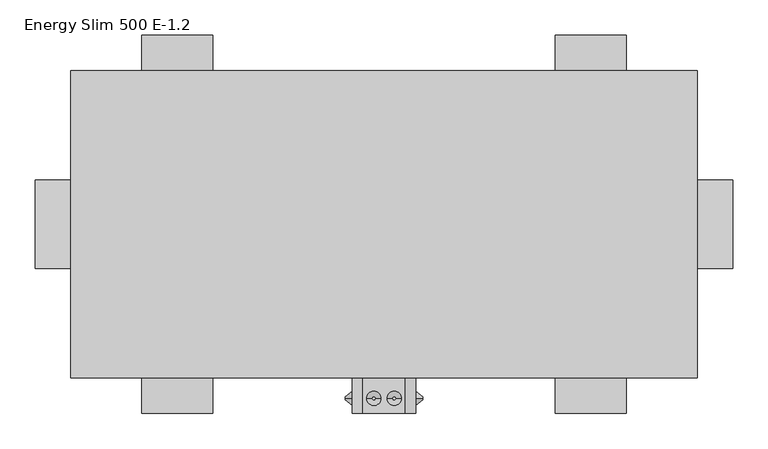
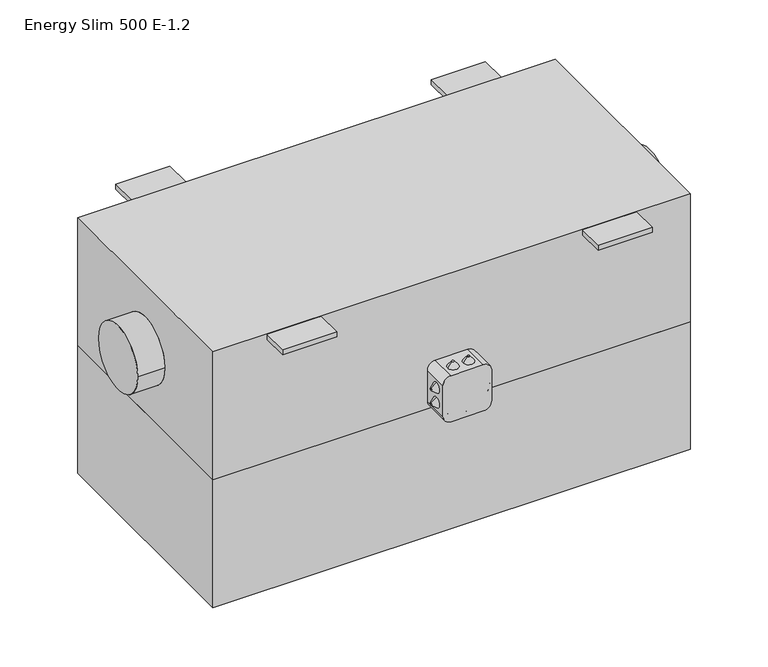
"""IFC4 building model written with IfcOpenShell, lengths in millimetres: proxy geometry, ADSK_КПВУ_ENERGY SLIM E_круглая : Energy Slim 500 E-1.2."""

from ifc_helpers import new_model, si_unit, point, frame, frame_2d, origin, place, context, project, spatial, polyline, circle_curve, trimmed, segment, composite_curve, outline, extrude, source, transform, mapped, element, save
from ifc_brep_helpers import plane_surface, cylinder_surface, revolved_surface, advanced_brep


def energy_slim_500_e_1_2_b539ae45(model_context):
    return source(origin(), model_context, "Body", "SolidModel", [
        advanced_brep(
        [(211.0, -245.9311792, -96.7092609), (211.0, -245.9311792, -92.7092609), (221.0, -245.9311792, -104.7092609), (221.0, -245.9311792, -84.7092609)],
        [
            (0, 1, circle_curve(frame((211.0, -245.9311792, -94.7092609), z_axis=(-1.0, 0.0, 0.0), x_axis=(0.0, 0.0, -1.0)), 2.0)),
            (1, 0, circle_curve(frame((211.0, -245.9311792, -94.7092609), z_axis=(-1.0, 0.0, 0.0), x_axis=(0.0, 0.0, 1.0)), 2.0)),
            (2, 3, circle_curve(frame((221.0, -245.9311792, -94.7092609), z_axis=(1.0, 0.0, 0.0), x_axis=(0.0, 0.0, 1.0)), 10.0)),
            (3, 2, circle_curve(frame((221.0, -245.9311792, -94.7092609), z_axis=(1.0, 0.0, 0.0), x_axis=(0.0, 0.0, -1.0)), 10.0)),
            (2, 0),
            (1, 3),
        ],
        [
            plane_surface(frame((211.0, -245.9311792, -94.7092609), z_axis=(-1.0, 0.0, 0.0), x_axis=(0.0, -1.0, 0.0))),
            plane_surface(frame((221.0, -245.9311792, -94.7092609), z_axis=(1.0, 0.0, 0.0), x_axis=(0.0, -1.0, 0.0))),
            revolved_surface(polyline([(211.0, -245.9311792, -92.7092609), (221.0, -245.9311792, -84.7092609)]), (208.5, -245.9311792, -94.7092609), (1.0, 0.0, 0.0)),
            revolved_surface(polyline([(211.0, -245.9311792, -96.7092609), (221.0, -245.9311792, -104.7092609)]), (208.5, -245.9311792, -94.7092609), (1.0, 0.0, 0.0)),
        ],
        [
            (0, [[1, 2]]),
            (1, [[3, 4]]),
            (2, [[-3, 5, -2, 6]]),
            (3, [[-4, -6, -1, -5]]),
        ],
    ),
        advanced_brep(
        [(211.0, -245.9311792, -64.0531164), (211.0, -245.9311792, -68.0531164), (221.0, -245.9311792, -56.0531164), (221.0, -245.9311792, -76.0531164)],
        [
            (0, 1, circle_curve(frame((211.0, -245.9311792, -66.0531164), z_axis=(-1.0, 0.0, 0.0), x_axis=(0.0, 0.0, 1.0)), 2.0)),
            (1, 0, circle_curve(frame((211.0, -245.9311792, -66.0531164), z_axis=(-1.0, 0.0, 0.0), x_axis=(0.0, 0.0, -1.0)), 2.0)),
            (2, 3, circle_curve(frame((221.0, -245.9311792, -66.0531164), z_axis=(1.0, 0.0, 0.0), x_axis=(0.0, 0.0, -1.0)), 10.0)),
            (3, 2, circle_curve(frame((221.0, -245.9311792, -66.0531164), z_axis=(1.0, 0.0, 0.0), x_axis=(0.0, 0.0, 1.0)), 10.0)),
            (3, 1),
            (0, 2),
        ],
        [
            plane_surface(frame((211.0, -245.9311792, -66.0531164), z_axis=(-1.0, 0.0, 0.0), x_axis=(0.0, 1.0, 0.0))),
            plane_surface(frame((221.0, -245.9311792, -66.0531164), z_axis=(1.0, 0.0, 0.0), x_axis=(0.0, 1.0, 0.0))),
            revolved_surface(polyline([(211.0, -245.9311792, -64.0531164), (221.0, -245.9311792, -56.0531164)]), (208.5, -245.9311792, -66.0531164), (1.0, 0.0, 0.0)),
            revolved_surface(polyline([(211.0, -245.9311792, -68.0531164), (221.0, -245.9311792, -76.0531164)]), (208.5, -245.9311792, -66.0531164), (1.0, 0.0, 0.0)),
        ],
        [
            (0, [[1, 2]]),
            (1, [[3, 4]]),
            (2, [[-4, 5, -1, 6]]),
            (3, [[-3, -6, -2, -5]]),
        ],
    ),
        advanced_brep(
        [(321.0, -245.9311792, -96.7092609), (321.0, -245.9311792, -92.7092609), (311.0, -245.9311792, -104.7092609), (311.0, -245.9311792, -84.7092609)],
        [
            (0, 1, circle_curve(frame((321.0, -245.9311792, -94.7092609), z_axis=(1.0, 0.0, 0.0), x_axis=(0.0, 0.0, -1.0)), 2.0)),
            (1, 0, circle_curve(frame((321.0, -245.9311792, -94.7092609), z_axis=(1.0, 0.0, 0.0), x_axis=(0.0, 0.0, 1.0)), 2.0)),
            (2, 3, circle_curve(frame((311.0, -245.9311792, -94.7092609), z_axis=(-1.0, 0.0, 0.0), x_axis=(0.0, 0.0, 1.0)), 10.0)),
            (3, 2, circle_curve(frame((311.0, -245.9311792, -94.7092609), z_axis=(-1.0, 0.0, 0.0), x_axis=(0.0, 0.0, -1.0)), 10.0)),
            (3, 1),
            (0, 2),
        ],
        [
            plane_surface(frame((321.0, -245.9311792, -94.7092609), z_axis=(1.0, 0.0, 0.0), x_axis=(0.0, 1.0, 0.0))),
            plane_surface(frame((311.0, -245.9311792, -94.7092609), z_axis=(-1.0, 0.0, 0.0), x_axis=(0.0, 1.0, 0.0))),
            revolved_surface(polyline([(321.0, -245.9311792, -96.7092609), (311.0, -245.9311792, -104.7092609)]), (323.5, -245.9311792, -94.7092609), (-1.0, 0.0, 0.0)),
            revolved_surface(polyline([(321.0, -245.9311792, -92.7092609), (311.0, -245.9311792, -84.7092609)]), (323.5, -245.9311792, -94.7092609), (-1.0, 0.0, 0.0)),
        ],
        [
            (0, [[1, 2]]),
            (1, [[3, 4]]),
            (2, [[-4, 5, -1, 6]]),
            (3, [[-3, -6, -2, -5]]),
        ],
    ),
        advanced_brep(
        [(321.0, -245.9311792, -64.0531164), (321.0, -245.9311792, -68.0531164), (311.0, -245.9311792, -56.0531164), (311.0, -245.9311792, -76.0531164)],
        [
            (0, 1, circle_curve(frame((321.0, -245.9311792, -66.0531164), z_axis=(1.0, 0.0, 0.0), x_axis=(0.0, 0.0, 1.0)), 2.0)),
            (1, 0, circle_curve(frame((321.0, -245.9311792, -66.0531164), z_axis=(1.0, 0.0, 0.0), x_axis=(0.0, 0.0, -1.0)), 2.0)),
            (2, 3, circle_curve(frame((311.0, -245.9311792, -66.0531164), z_axis=(-1.0, 0.0, 0.0), x_axis=(0.0, 0.0, -1.0)), 10.0)),
            (3, 2, circle_curve(frame((311.0, -245.9311792, -66.0531164), z_axis=(-1.0, 0.0, 0.0), x_axis=(0.0, 0.0, 1.0)), 10.0)),
            (2, 0),
            (1, 3),
        ],
        [
            plane_surface(frame((321.0, -245.9311792, -66.0531164), z_axis=(1.0, 0.0, 0.0), x_axis=(0.0, -1.0, 0.0))),
            plane_surface(frame((311.0, -245.9311792, -66.0531164), z_axis=(-1.0, 0.0, 0.0), x_axis=(0.0, -1.0, 0.0))),
            revolved_surface(polyline([(321.0, -245.9311792, -68.0531164), (311.0, -245.9311792, -76.0531164)]), (323.5, -245.9311792, -66.0531164), (-1.0, 0.0, 0.0)),
            revolved_surface(polyline([(321.0, -245.9311792, -64.0531164), (311.0, -245.9311792, -56.0531164)]), (323.5, -245.9311792, -66.0531164), (-1.0, 0.0, 0.0)),
        ],
        [
            (0, [[1, 2]]),
            (1, [[3, 4]]),
            (2, [[-3, 5, -2, 6]]),
            (3, [[-4, -6, -1, -5]]),
        ],
    ),
        advanced_brep(
        [(249.6719278, -245.9311792, -135.0), (253.6719278, -245.9311792, -135.0), (241.6719278, -245.9311792, -125.0), (261.6719278, -245.9311792, -125.0)],
        [
            (0, 1, circle_curve(frame((251.6719278, -245.9311792, -135.0), z_axis=(0.0, 0.0, -1.0), x_axis=(-1.0, 0.0, 0.0)), 2.0)),
            (1, 0, circle_curve(frame((251.6719278, -245.9311792, -135.0), z_axis=(0.0, 0.0, -1.0), x_axis=(1.0, 0.0, 0.0)), 2.0)),
            (2, 3, circle_curve(frame((251.6719278, -245.9311792, -125.0), z_axis=(0.0, 0.0, 1.0), x_axis=(1.0, 0.0, 0.0)), 10.0)),
            (3, 2, circle_curve(frame((251.6719278, -245.9311792, -125.0), z_axis=(0.0, 0.0, 1.0), x_axis=(-1.0, 0.0, 0.0)), 10.0)),
            (3, 1),
            (0, 2),
        ],
        [
            plane_surface(frame((251.6719278, -245.9311792, -135.0), z_axis=(0.0, 0.0, -1.0), x_axis=(0.0, 1.0, 0.0))),
            plane_surface(frame((251.6719278, -245.9311792, -125.0), z_axis=(0.0, 0.0, 1.0), x_axis=(0.0, 1.0, 0.0))),
            revolved_surface(polyline([(249.6719278, -245.9311792, -135.0), (241.6719278, -245.9311792, -125.0)]), (251.6719278, -245.9311792, -137.5), (0.0, 0.0, 1.0)),
            revolved_surface(polyline([(253.6719278, -245.9311792, -135.0), (261.6719278, -245.9311792, -125.0)]), (251.6719278, -245.9311792, -137.5), (0.0, 0.0, 1.0)),
        ],
        [
            (0, [[1, 2]]),
            (1, [[3, 4]]),
            (2, [[-4, 5, -1, 6]]),
            (3, [[-3, -6, -2, -5]]),
        ],
    ),
        advanced_brep(
        [(282.3280722, -245.9311792, -135.0), (278.3280722, -245.9311792, -135.0), (290.3280722, -245.9311792, -125.0), (270.3280722, -245.9311792, -125.0)],
        [
            (0, 1, circle_curve(frame((280.3280722, -245.9311792, -135.0), z_axis=(0.0, 0.0, -1.0), x_axis=(1.0, 0.0, 0.0)), 2.0)),
            (1, 0, circle_curve(frame((280.3280722, -245.9311792, -135.0), z_axis=(0.0, 0.0, -1.0), x_axis=(-1.0, 0.0, 0.0)), 2.0)),
            (2, 3, circle_curve(frame((280.3280722, -245.9311792, -125.0), z_axis=(0.0, 0.0, 1.0), x_axis=(-1.0, 0.0, 0.0)), 10.0)),
            (3, 2, circle_curve(frame((280.3280722, -245.9311792, -125.0), z_axis=(0.0, 0.0, 1.0), x_axis=(1.0, 0.0, 0.0)), 10.0)),
            (2, 0),
            (1, 3),
        ],
        [
            plane_surface(frame((280.3280722, -245.9311792, -135.0), z_axis=(0.0, 0.0, -1.0), x_axis=(0.0, -1.0, 0.0))),
            plane_surface(frame((280.3280722, -245.9311792, -125.0), z_axis=(0.0, 0.0, 1.0), x_axis=(0.0, -1.0, 0.0))),
            revolved_surface(polyline([(278.3280722, -245.9311792, -135.0), (270.3280722, -245.9311792, -125.0)]), (280.3280722, -245.9311792, -137.5), (0.0, 0.0, 1.0)),
            revolved_surface(polyline([(282.3280722, -245.9311792, -135.0), (290.3280722, -245.9311792, -125.0)]), (280.3280722, -245.9311792, -137.5), (0.0, 0.0, 1.0)),
        ],
        [
            (0, [[1, 2]]),
            (1, [[3, 4]]),
            (2, [[-3, 5, -2, 6]]),
            (3, [[-4, -6, -1, -5]]),
        ],
    ),
        advanced_brep(
        [(249.6719278, -245.9311792, -25.0), (253.6719278, -245.9311792, -25.0), (241.6719278, -245.9311792, -35.0), (261.6719278, -245.9311792, -35.0)],
        [
            (0, 1, circle_curve(frame((251.6719278, -245.9311792, -25.0), z_axis=(0.0, 0.0, 1.0), x_axis=(-1.0, 0.0, 0.0)), 2.0)),
            (1, 0, circle_curve(frame((251.6719278, -245.9311792, -25.0), z_axis=(0.0, 0.0, 1.0), x_axis=(1.0, 0.0, 0.0)), 2.0)),
            (2, 3, circle_curve(frame((251.6719278, -245.9311792, -35.0), z_axis=(0.0, 0.0, -1.0), x_axis=(1.0, 0.0, 0.0)), 10.0)),
            (3, 2, circle_curve(frame((251.6719278, -245.9311792, -35.0), z_axis=(0.0, 0.0, -1.0), x_axis=(-1.0, 0.0, 0.0)), 10.0)),
            (2, 0),
            (1, 3),
        ],
        [
            plane_surface(frame((251.6719278, -245.9311792, -25.0), z_axis=(0.0, 0.0, 1.0), x_axis=(0.0, -1.0, 0.0))),
            plane_surface(frame((251.6719278, -245.9311792, -35.0), z_axis=(0.0, 0.0, -1.0), x_axis=(0.0, -1.0, 0.0))),
            revolved_surface(polyline([(253.6719278, -245.9311792, -25.0), (261.6719278, -245.9311792, -35.0)]), (251.6719278, -245.9311792, -22.5), (0.0, 0.0, -1.0)),
            revolved_surface(polyline([(249.6719278, -245.9311792, -25.0), (241.6719278, -245.9311792, -35.0)]), (251.6719278, -245.9311792, -22.5), (0.0, 0.0, -1.0)),
        ],
        [
            (0, [[1, 2]]),
            (1, [[3, 4]]),
            (2, [[-3, 5, -2, 6]]),
            (3, [[-4, -6, -1, -5]]),
        ],
    ),
        advanced_brep(
        [(282.3280722, -245.9311792, -25.0), (278.3280722, -245.9311792, -25.0), (290.3280722, -245.9311792, -35.0), (270.3280722, -245.9311792, -35.0)],
        [
            (0, 1, circle_curve(frame((280.3280722, -245.9311792, -25.0), z_axis=(0.0, 0.0, 1.0), x_axis=(1.0, 0.0, 0.0)), 2.0)),
            (1, 0, circle_curve(frame((280.3280722, -245.9311792, -25.0), z_axis=(0.0, 0.0, 1.0), x_axis=(-1.0, 0.0, 0.0)), 2.0)),
            (2, 3, circle_curve(frame((280.3280722, -245.9311792, -35.0), z_axis=(0.0, 0.0, -1.0), x_axis=(-1.0, 0.0, 0.0)), 10.0)),
            (3, 2, circle_curve(frame((280.3280722, -245.9311792, -35.0), z_axis=(0.0, 0.0, -1.0), x_axis=(1.0, 0.0, 0.0)), 10.0)),
            (3, 1),
            (0, 2),
        ],
        [
            plane_surface(frame((280.3280722, -245.9311792, -25.0), z_axis=(0.0, 0.0, 1.0), x_axis=(0.0, 1.0, 0.0))),
            plane_surface(frame((280.3280722, -245.9311792, -35.0), z_axis=(0.0, 0.0, -1.0), x_axis=(0.0, 1.0, 0.0))),
            revolved_surface(polyline([(282.3280722, -245.9311792, -25.0), (290.3280722, -245.9311792, -35.0)]), (280.3280722, -245.9311792, -22.5), (0.0, 0.0, -1.0)),
            revolved_surface(polyline([(278.3280722, -245.9311792, -25.0), (270.3280722, -245.9311792, -35.0)]), (280.3280722, -245.9311792, -22.5), (0.0, 0.0, -1.0)),
        ],
        [
            (0, [[1, 2]]),
            (1, [[3, 4]]),
            (2, [[-4, 5, -1, 6]]),
            (3, [[-3, -6, -2, -5]]),
        ],
    ),
        extrude(outline(composite_curve([segment(polyline([(-125.0, 236.0), (-125.0, 296.0)]), True, "CONTINUOUS"), segment(trimmed(circle_curve(frame_2d((-110.0, 296.0)), 15.0), [point((-125.0, 296.0))], [point((-110.0, 311.0))], False, "CARTESIAN"), True, "CONTINUOUS"), segment(polyline([(-110.0, 311.0), (-50.0, 311.0)]), True, "CONTINUOUS"), segment(trimmed(circle_curve(frame_2d((-50.0, 296.0)), 15.0), [point((-50.0, 311.0))], [point((-35.0, 296.0))], False, "CARTESIAN"), True, "CONTINUOUS"), segment(polyline([(-35.0, 296.0), (-35.0, 236.0)]), True, "CONTINUOUS"), segment(trimmed(circle_curve(frame_2d((-50.0, 236.0)), 15.0), [point((-35.0, 236.0))], [point((-50.0, 221.0))], False, "CARTESIAN"), True, "CONTINUOUS"), segment(polyline([(-50.0, 221.0), (-110.0, 221.0)]), True, "CONTINUOUS"), segment(trimmed(circle_curve(frame_2d((-110.0, 236.0)), 15.0), [point((-110.0, 221.0))], [point((-125.0, 236.0))], False, "CARTESIAN"), True, "CONTINUOUS")], self_intersect=False)), frame((0.0, -267.0, 0.0), z_axis=(0.0, 1.0, 0.0), x_axis=(0.0, 0.0, 1.0)), (0.0, 0.0, 1.0), 50.0),
        advanced_brep(
        [(708.0, -217.0, 125.0), (708.0, -217.0, -125.0), (708.0, 217.0, -125.0), (708.0, 217.0, 125.0), (708.0, 62.5, 0.0), (708.0, -62.5, 0.0), (-176.0, -217.0, 125.0), (-176.0, 217.0, 125.0), (-176.0, 217.0, -125.0), (-176.0, -217.0, -125.0), (-176.0, 62.5, 0.0), (-176.0, -62.5, 0.0), (-226.0, -62.5, 0.0), (-226.0, 62.5, 0.0), (758.0, -62.5, 0.0), (758.0, 62.5, 0.0)],
        [
            (0, 1),
            (1, 2),
            (2, 3),
            (3, 0),
            (4, 5, circle_curve(frame((708.0, 0.0, 0.0), z_axis=(-1.0, 0.0, 0.0), x_axis=(0.0, 1.0, 0.0)), 62.5)),
            (5, 4, circle_curve(frame((708.0, 0.0, 0.0), z_axis=(-1.0, 0.0, 0.0), x_axis=(0.0, 1.0, 0.0)), 62.5)),
            (6, 7),
            (7, 8),
            (8, 9),
            (9, 6),
            (10, 11, circle_curve(frame((-176.0, 0.0, 0.0), z_axis=(1.0, 0.0, 0.0), x_axis=(0.0, 1.0, 0.0)), 62.5)),
            (11, 10, circle_curve(frame((-176.0, 0.0, 0.0), z_axis=(1.0, 0.0, 0.0), x_axis=(0.0, 1.0, 0.0)), 62.5)),
            (12, 13, circle_curve(frame((-226.0, 0.0, 0.0), z_axis=(-1.0, 0.0, 0.0), x_axis=(0.0, 1.0, 0.0)), 62.5)),
            (13, 12, circle_curve(frame((-226.0, 0.0, 0.0), z_axis=(-1.0, 0.0, 0.0), x_axis=(0.0, 1.0, 0.0)), 62.5)),
            (0, 6),
            (9, 1),
            (8, 2),
            (7, 3),
            (12, 11),
            (10, 13),
            (14, 15, circle_curve(frame((758.0, 0.0, 0.0), z_axis=(1.0, 0.0, 0.0), x_axis=(0.0, 1.0, 0.0)), 62.5)),
            (15, 14, circle_curve(frame((758.0, 0.0, 0.0), z_axis=(1.0, 0.0, 0.0), x_axis=(0.0, 1.0, 0.0)), 62.5)),
            (14, 5),
            (4, 15),
        ],
        [
            plane_surface(frame((708.0, -217.0, 125.0), z_axis=(1.0, 0.0, 0.0), x_axis=(0.0, 0.0, -1.0))),
            plane_surface(frame((-176.0, -217.0, 125.0), z_axis=(-1.0, 0.0, 0.0), x_axis=(0.0, 0.0, 1.0))),
            plane_surface(frame((-226.0, 62.5, 0.0), z_axis=(-1.0, 0.0, 0.0), x_axis=(0.0, 0.0, -1.0))),
            plane_surface(frame((708.0, -217.0, 125.0), z_axis=(0.0, -1.0, 0.0), x_axis=(-1.0, 0.0, 0.0))),
            plane_surface(frame((708.0, -217.0, -125.0), z_axis=(0.0, 0.0, -1.0), x_axis=(-1.0, 0.0, 0.0))),
            plane_surface(frame((708.0, 217.0, -125.0), z_axis=(0.0, 1.0, 0.0), x_axis=(-1.0, 0.0, 0.0))),
            plane_surface(frame((708.0, 217.0, 125.0), z_axis=(0.0, 0.0, 1.0), x_axis=(-1.0, 0.0, 0.0))),
            cylinder_surface(frame((-226.0, 0.0, 0.0), z_axis=(1.0, 0.0, 0.0), x_axis=(0.0, 1.0, 0.0)), 62.5),
            plane_surface(frame((758.0, 62.5, 0.0), z_axis=(1.0, 0.0, 0.0), x_axis=(0.0, 0.0, 1.0))),
            cylinder_surface(frame((708.0, 0.0, 0.0), z_axis=(1.0, 0.0, 0.0), x_axis=(0.0, 1.0, 0.0)), 62.5),
        ],
        [
            (0, [[1, 2, 3, 4], [5, 6]]),
            (1, [[7, 8, 9, 10], [11, 12]]),
            (2, [[13, 14]]),
            (3, [[-1, 15, -10, 16]]),
            (4, [[-2, -16, -9, 17]]),
            (5, [[-3, -17, -8, 18]]),
            (6, [[-4, -18, -7, -15]]),
            (7, [[-13, 19, -11, 20]]),
            (7, [[-14, -20, -12, -19]]),
            (8, [[21, 22]]),
            (9, [[-21, 23, -5, 24]]),
            (9, [[-22, -24, -6, -23]]),
        ],
    ),
        extrude(outline(polyline([(24.0, 267.0), (24.0, 217.0), (-76.0, 217.0), (-76.0, 267.0), (24.0, 267.0)])), frame((0.0, 0.0, 115.0), z_axis=(0.0, 0.0, 1.0), x_axis=(1.0, 0.0, 0.0)), (0.0, 0.0, 1.0), 10.0),
        extrude(outline(polyline([(508.0, 267.0), (608.0, 267.0), (608.0, 217.0), (508.0, 217.0), (508.0, 267.0)])), frame((0.0, 0.0, 115.0), z_axis=(0.0, 0.0, 1.0), x_axis=(1.0, 0.0, 0.0)), (0.0, 0.0, 1.0), 10.0),
        extrude(outline(polyline([(24.0, -267.0), (-76.0, -267.0), (-76.0, -217.0), (24.0, -217.0), (24.0, -267.0)])), frame((0.0, 0.0, 115.0), z_axis=(0.0, 0.0, 1.0), x_axis=(1.0, 0.0, 0.0)), (0.0, 0.0, 1.0), 10.0),
        extrude(outline(polyline([(508.0, -267.0), (508.0, -217.0), (608.0, -217.0), (608.0, -267.0), (508.0, -267.0)])), frame((0.0, 0.0, 115.0), z_axis=(0.0, 0.0, 1.0), x_axis=(1.0, 0.0, 0.0)), (0.0, 0.0, 1.0), 10.0),
        extrude(outline(polyline([(708.0, 217.0), (708.0, -217.0), (-176.0, -217.0), (-176.0, 217.0), (708.0, 217.0)])), frame((0.0, 0.0, -375.0), z_axis=(0.0, 0.0, 1.0), x_axis=(1.0, 0.0, 0.0)), (0.0, 0.0, 1.0), 250.0),
    ])


if __name__ == "__main__":
    model = new_model("IFC4")
    model_context = context("Model", 3, world=origin())
    ifc_project = project(units=[si_unit("LENGTHUNIT", "METRE", prefix="MILLI")], contexts=[model_context])
    site = spatial("IfcSite", under=ifc_project)
    building = spatial("IfcBuilding", under=site)
    placement = place(None, origin())
    energy_slim_500_e_1_2_shape = energy_slim_500_e_1_2_b539ae45(model_context)
    element("IfcBuildingElementProxy", 1, Name="ADSK_КПВУ_ENERGY SLIM E_круглая : Energy Slim 500 E-1.2", ObjectType="ADSK_КПВУ_ENERGY SLIM E_круглая : Energy Slim 500 E-1.2", at=placement, inside=building, context=model_context, shape_type="MappedRepresentation", body=[
        mapped(energy_slim_500_e_1_2_shape, transform((0.0, 0.0, 0.0), x_axis=(1.0, 0.0, 0.0), y_axis=(0.0, 1.0, 0.0), z_axis=(0.0, 0.0, 1.0))),
    ])
    save(model, "model.ifc")
